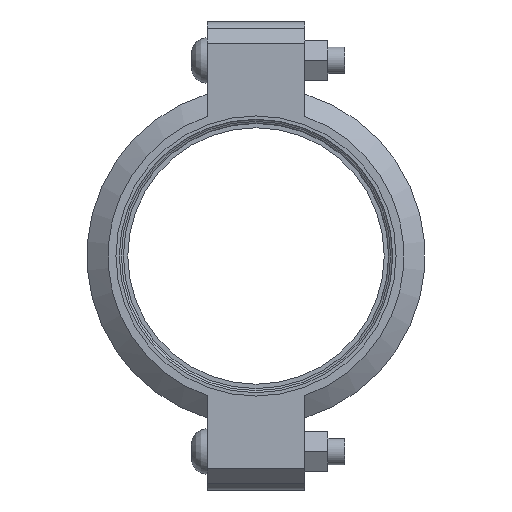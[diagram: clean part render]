
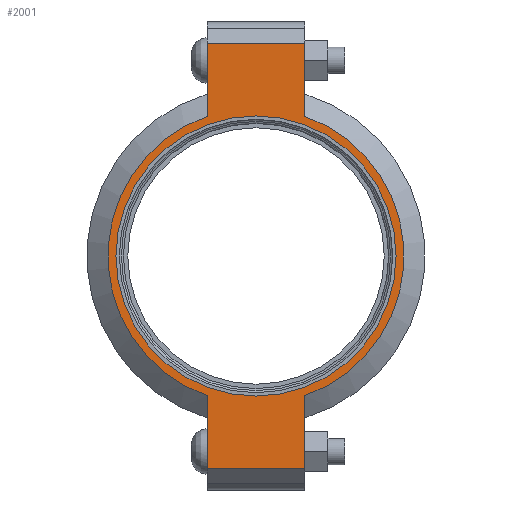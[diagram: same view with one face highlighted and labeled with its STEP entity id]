
A CAD part, left-side view. The second image highlights one B-rep face of the part: STEP entity #2001.
In plain terms, the highlighted planar face has unit normal (-1, 0, 0) as drawn and (0, 0, 1) by its records, which use the part's own axes.
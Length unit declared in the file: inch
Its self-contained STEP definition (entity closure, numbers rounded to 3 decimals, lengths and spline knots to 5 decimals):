
#134=LINE('',#3570,#233);
#142=LINE('',#3606,#241);
#149=LINE('',#3627,#248);
#158=LINE('',#3659,#257);
#159=LINE('',#3663,#258);
#160=LINE('',#3665,#259);
#233=VECTOR('',#2932,0.3937);
#241=VECTOR('',#2948,0.3937);
#248=VECTOR('',#2967,0.3937);
#257=VECTOR('',#2992,0.3937);
#258=VECTOR('',#2997,0.3937);
#259=VECTOR('',#2998,0.3937);
#319=FACE_BOUND('',#589,.T.);
#365=PLANE('',#2366);
#461=FACE_OUTER_BOUND('',#588,.T.);
#588=EDGE_LOOP('',(#1730,#1731,#1732,#1733,#1734,#1735,#1736,#1737));
#589=EDGE_LOOP('',(#1738));
#736=CIRCLE('',#2308,3.3125);
#762=CIRCLE('',#2367,3.5);
#763=CIRCLE('',#2368,3.5);
#887=VERTEX_POINT('',#3386);
#930=VERTEX_POINT('',#3567);
#931=VERTEX_POINT('',#3569);
#942=VERTEX_POINT('',#3601);
#943=VERTEX_POINT('',#3605);
#950=VERTEX_POINT('',#3624);
#951=VERTEX_POINT('',#3626);
#961=VERTEX_POINT('',#3662);
#962=VERTEX_POINT('',#3664);
#1124=EDGE_CURVE('',#887,#887,#736,.T.);
#1185=EDGE_CURVE('',#931,#930,#134,.T.);
#1199=EDGE_CURVE('',#943,#942,#142,.T.);
#1209=EDGE_CURVE('',#951,#950,#149,.T.);
#1224=EDGE_CURVE('',#943,#930,#158,.T.);
#1225=EDGE_CURVE('',#942,#951,#762,.T.);
#1226=EDGE_CURVE('',#961,#950,#159,.T.);
#1227=EDGE_CURVE('',#961,#962,#160,.T.);
#1228=EDGE_CURVE('',#962,#931,#763,.T.);
#1730=ORIENTED_EDGE('',*,*,#1224,.F.);
#1731=ORIENTED_EDGE('',*,*,#1199,.T.);
#1732=ORIENTED_EDGE('',*,*,#1225,.T.);
#1733=ORIENTED_EDGE('',*,*,#1209,.T.);
#1734=ORIENTED_EDGE('',*,*,#1226,.F.);
#1735=ORIENTED_EDGE('',*,*,#1227,.T.);
#1736=ORIENTED_EDGE('',*,*,#1228,.T.);
#1737=ORIENTED_EDGE('',*,*,#1185,.T.);
#1738=ORIENTED_EDGE('',*,*,#1124,.T.);
#2001=ADVANCED_FACE('',(#461,#319),#365,.T.);
#2308=AXIS2_PLACEMENT_3D('',#3388,#2808,#2809);
#2366=AXIS2_PLACEMENT_3D('',#3660,#2993,#2994);
#2367=AXIS2_PLACEMENT_3D('',#3661,#2995,#2996);
#2368=AXIS2_PLACEMENT_3D('',#3666,#2999,#3000);
#2808=DIRECTION('center_axis',(0.,0.,-1.));
#2809=DIRECTION('ref_axis',(1.,0.,0.));
#2932=DIRECTION('',(1.,0.,0.));
#2948=DIRECTION('',(-1.,0.,0.));
#2967=DIRECTION('',(-1.,0.,0.));
#2992=DIRECTION('',(0.,-1.,0.));
#2993=DIRECTION('center_axis',(0.,0.,1.));
#2994=DIRECTION('ref_axis',(-1.,0.,0.));
#2995=DIRECTION('center_axis',(0.,0.,1.));
#2996=DIRECTION('ref_axis',(1.,0.,0.));
#2997=DIRECTION('',(0.,1.,0.));
#2998=DIRECTION('',(1.,0.,0.));
#2999=DIRECTION('center_axis',(0.,0.,1.));
#3000=DIRECTION('ref_axis',(1.,0.,0.));
#3386=CARTESIAN_POINT('',(-3.3125,0.,1.065));
#3388=CARTESIAN_POINT('Origin',(0.,0.,1.065));
#3567=CARTESIAN_POINT('',(5.035,-1.156,1.065));
#3569=CARTESIAN_POINT('',(3.30358,-1.156,1.065));
#3570=CARTESIAN_POINT('',(5.535,-1.156,1.065));
#3601=CARTESIAN_POINT('',(3.30358,1.156,1.065));
#3605=CARTESIAN_POINT('',(5.035,1.156,1.065));
#3606=CARTESIAN_POINT('',(-5.535,1.156,1.065));
#3624=CARTESIAN_POINT('',(-5.035,1.156,1.065));
#3626=CARTESIAN_POINT('',(-3.30358,1.156,1.065));
#3627=CARTESIAN_POINT('',(-5.535,1.156,1.065));
#3659=CARTESIAN_POINT('',(5.035,-0.578,1.065));
#3660=CARTESIAN_POINT('Origin',(0.,0.,
1.065));
#3661=CARTESIAN_POINT('Origin',(0.,0.,1.065));
#3662=CARTESIAN_POINT('',(-5.035,-1.156,1.065));
#3663=CARTESIAN_POINT('',(-5.035,0.578,1.065));
#3664=CARTESIAN_POINT('',(-3.30358,-1.156,1.065));
#3665=CARTESIAN_POINT('',(5.535,-1.156,1.065));
#3666=CARTESIAN_POINT('Origin',(0.,0.,1.065));
